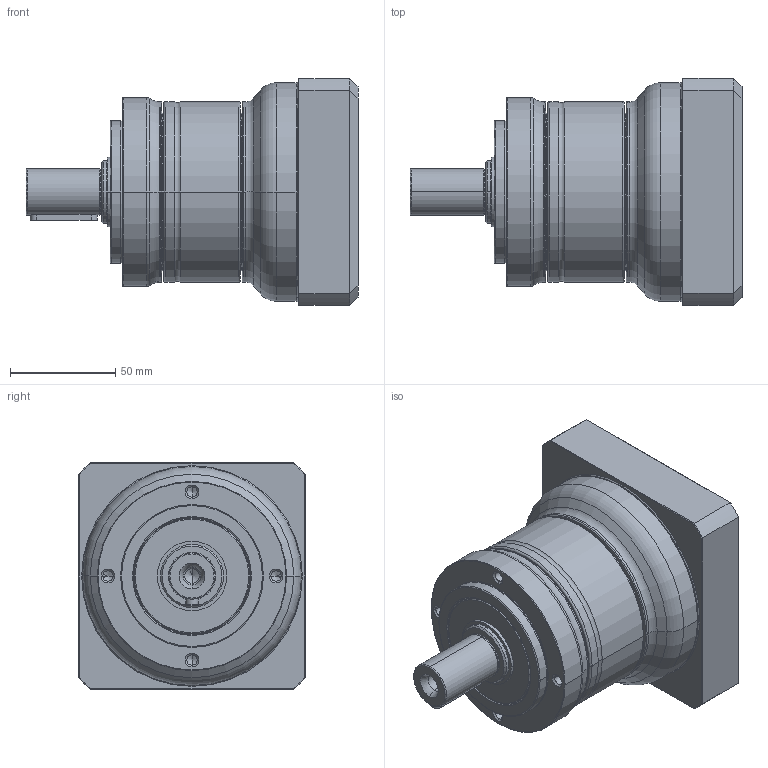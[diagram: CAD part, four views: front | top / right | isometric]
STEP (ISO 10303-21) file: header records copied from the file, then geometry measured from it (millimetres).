
FILE_DESCRIPTION((''),'2;1');
FILE_NAME('PE2-090_1ST_28-P0411600101_ASM','2017-05-31T',('d01943'),(''),'PRO/ENGINEER BY PARAMETRIC TECHNOLOGY CORPORATION, 2008410','PRO/ENGINEER BY PARAMETRIC TECHNOLOGY CORPORATION, 2008410','');
FILE_SCHEMA(('CONFIG_CONTROL_DESIGN'));
Length unit declared in the file: millimetre
Products named in the file (9): P1323310001; P0250300001; P1324300301; P0350301001; P0941303001; P0503600008; P0411600101; P1702500001; PE2-090_1ST_28-P0411600101_ASM
Assembly tree (8 placements, depth 2):
  PE2-090_1ST_28-P0411600101_ASM
    P1323310001
    P0250300001
    P1324300301
    P0350301001
    P0941303001
    P0503600008
    P0411600101
    P1702500001
Bounding box: 158 x 108 x 108 mm (x, y, z)
Volume: 639700.9 mm3; surface area: 152186.2 mm2
Topology: 8 solids, 8 shells, 465 faces, 1019 edges, 584 vertices
Faces by surface type: cone 138, cylinder 136, torus 98, plane 77, bspline 16
Entity records: 17316 total; most frequent: CARTESIAN_POINT 6888, DIRECTION 2377, ORIENTED_EDGE 1974, AXIS2_PLACEMENT_3D 1021, EDGE_CURVE 987, VERTEX_POINT 584, CIRCLE 555, EDGE_LOOP 527
